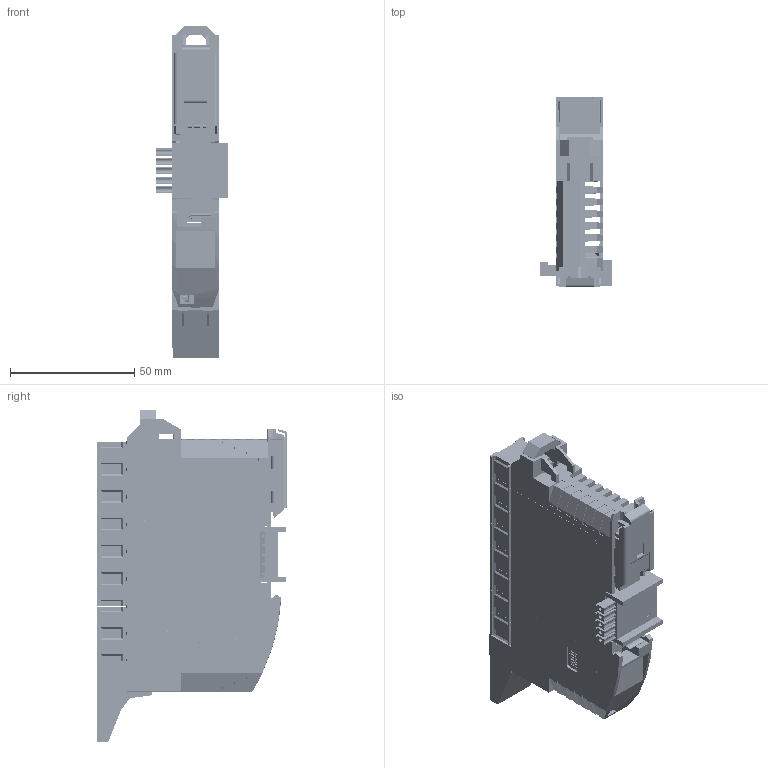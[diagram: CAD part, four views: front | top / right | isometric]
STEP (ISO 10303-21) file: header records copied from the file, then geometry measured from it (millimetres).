
FILE_DESCRIPTION(/* description */ (''),/* implementation_level */ '2;1');
FILE_NAME(/* name */ 'C:/Temp/STEP/FdxCompact_AO-8-C.step',/* time_stamp */ '2020-04-03T13:42:36+03:00',/* author */ (''),/* organization */ (''),/* preprocessor_version */ 'ST-DEVELOPER v18',/* originating_system */ 'Autodesk Translation Framework v8.12.0.6',/* authorisation */ '');
FILE_SCHEMA (('AUTOMOTIVE_DESIGN { 1 0 10303 214 3 1 1 }'));
Products named in the file (1): FdxCompact_AO-8-C
Bounding box: 29.2 x 76.5 x 133.55 mm (x, y, z)
Volume: 51466.4 mm3; surface area: 74218.5 mm2
Topology: 327 solids, 331 shells, 7705 faces, 20575 edges, 13680 vertices
Faces by surface type: plane 5889, cylinder 864, bspline 791, cone 96, sphere 33, torus 32
Full cylindrical faces by diameter (mm): 0.62 x1, 1 x19, 1.2 x32, 1.3 x32, 1.6 x10
Entity records: 384388 total; most frequent: CARTESIAN_POINT 188013, ORIENTED_EDGE 40934, DIRECTION 34566, EDGE_CURVE 20543, LINE 16458, VECTOR 16458, VERTEX_POINT 13680, AXIS2_PLACEMENT_3D 9054
